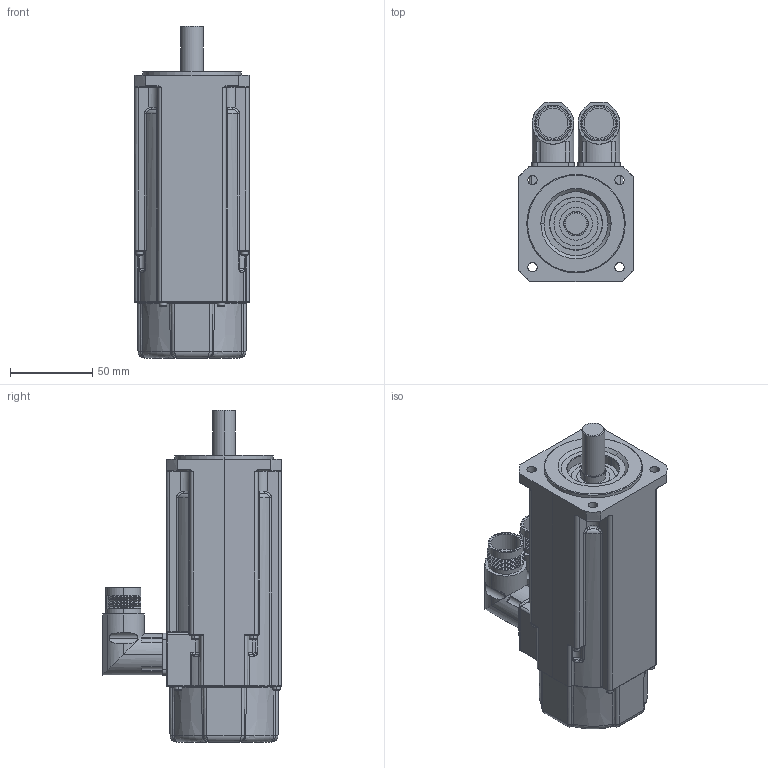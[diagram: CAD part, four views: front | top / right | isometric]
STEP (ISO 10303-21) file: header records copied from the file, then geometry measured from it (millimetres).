
FILE_DESCRIPTION (( 'STEP AP214' ), '1' );
FILE_NAME ('MR7732-Ux-Nxx-G01-A0D-MS-P0.stp', '2009-04-08T13:46:00', ( 'sysAdmin' ), ( 'SolidWorks' ), 'SwSTEP 2.0', 'SolidWorks 2009', '' );
FILE_SCHEMA (( 'AUTOMOTIVE_DESIGN' ));
Length unit declared in the file: millimetre
Products named in the file (1): MR7732-Ux-Nxx-G01-A0D-MS-P0
Bounding box: 70 x 109 x 202.3 mm (x, y, z)
Volume: 765365.4 mm3; surface area: 67947.5 mm2
Topology: 1 solids, 1 shells, 688 faces, 1632 edges, 932 vertices
Faces by surface type: cylinder 224, bspline 148, cone 126, plane 122, torus 66, sphere 2
Entity records: 27027 total; most frequent: CARTESIAN_POINT 9729, ORIENTED_EDGE 3184, DIRECTION 2892, EDGE_CURVE 1592, AXIS2_PLACEMENT_3D 1229, VERTEX_POINT 932, EDGE_LOOP 722, ADVANCED_FACE 688
